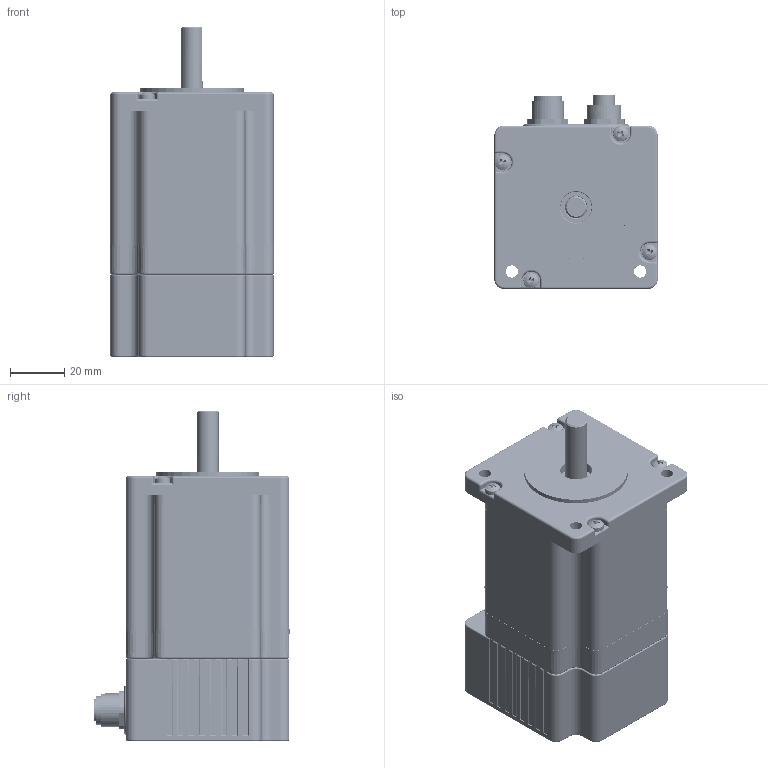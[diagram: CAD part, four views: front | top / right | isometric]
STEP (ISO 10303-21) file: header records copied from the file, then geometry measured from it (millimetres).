
FILE_DESCRIPTION (( 'STEP AP214' ), '1' );
FILE_NAME ('M60SH65-TM1611S05C.STEP', '2025-05-30T16:50:55', ( '' ), ( '' ), 'SwSTEP 2.0', 'SolidWorks 2019', '' );
FILE_SCHEMA (( 'AUTOMOTIVE_DESIGN' ));
Length unit declared in the file: millimetre
Products named in the file (1): M60SH65-TM1611S05C
Bounding box: 60.19 x 71.7 x 121.3 mm (x, y, z)
Volume: 174043.5 mm3; surface area: 96026 mm2
Topology: 21 solids, 21 shells, 5063 faces, 12975 edges, 8159 vertices
Faces by surface type: plane 1798, cylinder 1446, bspline 632, torus 606, cone 512, sphere 69
Entity records: 200488 total; most frequent: CARTESIAN_POINT 73342, ORIENTED_EDGE 25784, DIRECTION 24461, EDGE_CURVE 12892, AXIS2_PLACEMENT_3D 9138, VERTEX_POINT 8159, LINE 6185, VECTOR 6185
